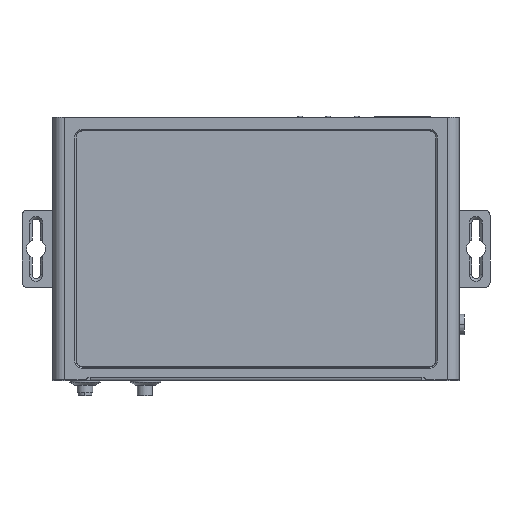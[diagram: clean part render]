
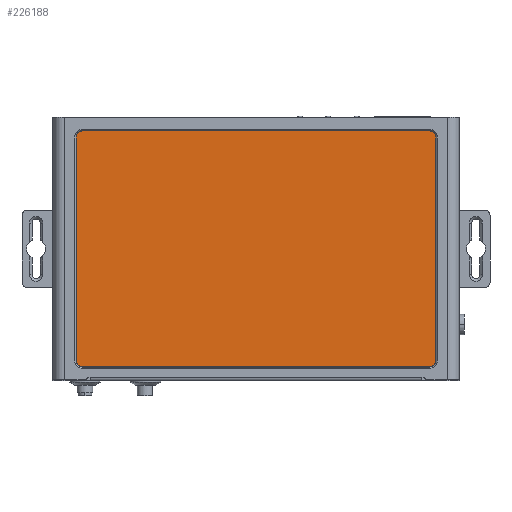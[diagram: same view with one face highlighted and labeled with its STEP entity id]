
A CAD part, front view. The second image highlights one B-rep face of the part: STEP entity #226188.
In plain terms, the highlighted planar face has unit normal (0, -1, 0).
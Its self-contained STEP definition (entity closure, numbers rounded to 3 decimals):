
#225969=CARTESIAN_POINT('',(-177.9,-0.5,-8.25));
#225970=DIRECTION('',(0.,-1.,0.));
#225971=DIRECTION('',(0.,0.,1.));
#225972=AXIS2_PLACEMENT_3D('',#225969,#225970,#225971);
#225974=DIRECTION('',(-1.,0.,0.));
#225975=VECTOR('',#225974,135.);
#225976=CARTESIAN_POINT('',(-42.9,-0.5,-5.9));
#225977=LINE('',#225976,#225975);
#225978=CARTESIAN_POINT('',(-42.9,-0.5,-8.25));
#225979=DIRECTION('',(0.,-1.,0.));
#225980=DIRECTION('',(1.,0.,0.));
#225981=AXIS2_PLACEMENT_3D('',#225978,#225979,#225980);
#225983=DIRECTION('',(0.,0.,1.));
#225984=VECTOR('',#225983,87.);
#225985=CARTESIAN_POINT('',(-40.55,-0.5,-95.25));
#225986=LINE('',#225985,#225984);
#225987=CARTESIAN_POINT('',(-42.9,-0.5,-95.25));
#225988=DIRECTION('',(0.,-1.,0.));
#225989=DIRECTION('',(0.,0.,-1.));
#225990=AXIS2_PLACEMENT_3D('',#225987,#225988,#225989);
#225992=DIRECTION('',(1.,0.,0.));
#225993=VECTOR('',#225992,135.);
#225994=CARTESIAN_POINT('',(-177.9,-0.5,-97.6));
#225995=LINE('',#225994,#225993);
#225996=CARTESIAN_POINT('',(-177.9,-0.5,-95.25));
#225997=DIRECTION('',(0.,-1.,0.));
#225998=DIRECTION('',(-1.,0.,0.));
#225999=AXIS2_PLACEMENT_3D('',#225996,#225997,#225998);
#226001=DIRECTION('',(0.,0.,-1.));
#226002=VECTOR('',#226001,87.);
#226003=CARTESIAN_POINT('',(-180.25,-0.5,-8.25));
#226004=LINE('',#226003,#226002);
#226021=CARTESIAN_POINT('',(-177.9,-0.5,-5.9));
#226022=CARTESIAN_POINT('',(-180.25,-0.5,-8.25));
#226023=VERTEX_POINT('',#226021);
#226024=VERTEX_POINT('',#226022);
#226025=CARTESIAN_POINT('',(-180.25,-0.5,-95.25));
#226026=VERTEX_POINT('',#226025);
#226027=CARTESIAN_POINT('',(-177.9,-0.5,-97.6));
#226028=VERTEX_POINT('',#226027);
#226029=CARTESIAN_POINT('',(-42.9,-0.5,-97.6));
#226030=VERTEX_POINT('',#226029);
#226031=CARTESIAN_POINT('',(-40.55,-0.5,-95.25));
#226032=VERTEX_POINT('',#226031);
#226033=CARTESIAN_POINT('',(-40.55,-0.5,-8.25));
#226034=VERTEX_POINT('',#226033);
#226035=CARTESIAN_POINT('',(-42.9,-0.5,-5.9));
#226036=VERTEX_POINT('',#226035);
#226173=CARTESIAN_POINT('',(0.,-0.5,0.));
#226174=DIRECTION('',(0.,-1.,0.));
#226175=DIRECTION('',(1.,0.,0.));
#226176=AXIS2_PLACEMENT_3D('',#226173,#226174,#226175);
#226177=PLANE('',#226176);
#226178=ORIENTED_EDGE('',*,*,#226069,.F.);
#226179=ORIENTED_EDGE('',*,*,#226084,.F.);
#226180=ORIENTED_EDGE('',*,*,#226098,.F.);
#226181=ORIENTED_EDGE('',*,*,#226112,.F.);
#226182=ORIENTED_EDGE('',*,*,#226126,.F.);
#226183=ORIENTED_EDGE('',*,*,#226140,.F.);
#226184=ORIENTED_EDGE('',*,*,#226154,.F.);
#226185=ORIENTED_EDGE('',*,*,#226167,.F.);
#226186=EDGE_LOOP('',(#226178,#226179,#226180,#226181,#226182,#226183,#226184,
#226185));
#226187=FACE_OUTER_BOUND('',#226186,.F.);
#226188=ADVANCED_FACE('',(#226187),#226177,.T.);
#225973=CIRCLE('',#225972,2.35);
#225982=CIRCLE('',#225981,2.35);
#225991=CIRCLE('',#225990,2.35);
#226000=CIRCLE('',#225999,2.35);
#226069=EDGE_CURVE('',#226023,#226024,#225973,.T.);
#226084=EDGE_CURVE('',#226036,#226023,#225977,.T.);
#226098=EDGE_CURVE('',#226034,#226036,#225982,.T.);
#226112=EDGE_CURVE('',#226032,#226034,#225986,.T.);
#226126=EDGE_CURVE('',#226030,#226032,#225991,.T.);
#226140=EDGE_CURVE('',#226028,#226030,#225995,.T.);
#226154=EDGE_CURVE('',#226026,#226028,#226000,.T.);
#226167=EDGE_CURVE('',#226024,#226026,#226004,.T.);
